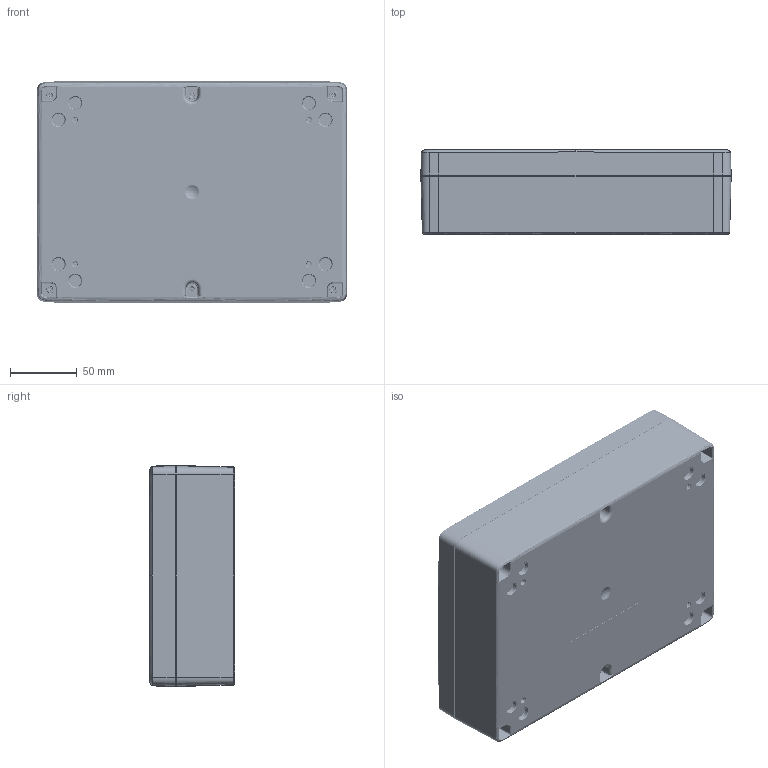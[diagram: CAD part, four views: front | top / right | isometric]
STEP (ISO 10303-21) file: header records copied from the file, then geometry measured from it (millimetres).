
FILE_DESCRIPTION (( 'STEP AP214' ), '1' );
FILE_NAME ('HN-67-11.STEP', '2026-09-24T18:04:34', ( '' ), ( '' ), 'SwSTEP 2.0', 'SolidWorks 2026', '' );
FILE_SCHEMA (( 'AUTOMOTIVE_DESIGN' ));
Length unit declared in the file: inch
Products named in the file (9): HN-67BN_HN-67BPN-01; LABEL-107; SCREWS-054_DEFAULT; HN-69C_HN-69C-01; HN-69G_default; HN-67-11; HN-69CG_HN-69CG-01; HN-67B_HN-67BP-01; INSERTS-3_INSERTS-3
Assembly tree (18 placements, depth 3):
  HN-67-11
    HN-67B_HN-67BP-01
      HN-67BN_HN-67BPN-01
      INSERTS-3_INSERTS-3  x6
      LABEL-107
    HN-69CG_HN-69CG-01
      HN-69C_HN-69C-01
      HN-69G_default
    SCREWS-054_DEFAULT  x6
Bounding box: 231.78 x 63.87 x 165.1 mm (x, y, z)
Volume: 457931.1 mm3; surface area: 288535.2 mm2
Topology: 16 solids, 16 shells, 4826 faces, 11540 edges, 6753 vertices
Faces by surface type: torus 1168, cone 1044, bspline 974, plane 834, cylinder 726, sphere 80
Full cylindrical faces by diameter (mm): 2.413 x6, 2.705 x6, 4.318 x6, 4.445 x24, 4.699 x12, 5.283 x12, 6.274 x6, 6.858 x6
Entity records: 160347 total; most frequent: CARTESIAN_POINT 71194, ORIENTED_EDGE 19800, DIRECTION 16335, EDGE_CURVE 9900, AXIS2_PLACEMENT_3D 7142, VERTEX_POINT 5973, EDGE_LOOP 4461, FACE_OUTER_BOUND 4258
